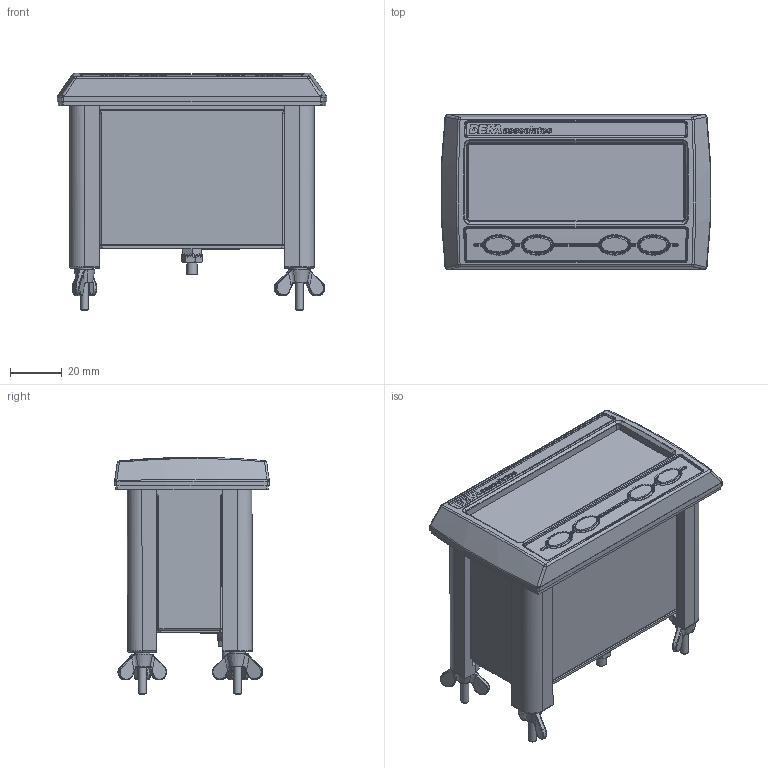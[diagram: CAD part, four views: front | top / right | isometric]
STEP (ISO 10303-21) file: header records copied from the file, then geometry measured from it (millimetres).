
FILE_DESCRIPTION (( 'STEP AP214' ), '1' );
FILE_NAME ('BA3X7SE.STEP', '2023-09-21T10:15:50', ( '' ), ( '' ), 'SwSTEP 2.0', 'SolidWorks 2023', '' );
FILE_SCHEMA (( 'AUTOMOTIVE_DESIGN' ));
Length unit declared in the file: millimetre
Products named in the file (21): BEK80604 - 105 x 60 KEYMAT; BEK80606 - 105 x 60 CLAMP SCREW; BEK80609 - 105 x 60 LABEL; spt_2.5-5-h-5.0-EX^pxc_1732412_01_SPT-2-5-5-H-5-0-EX_3D_Ex ec Loop Indicator Stainless Steel Enc. Assembly; pxc_1732409_01_SPT-2-5-4-H-5-0-EX_3D^Ex ec Loop Indicator Stainless Steel Enc. Assembly; BA3701 Certification Label; M4 Shakeproof washer; BEK80611 - 105 x 60 GASKET_Flat Gasket; plain washer clevis pin grade a_bsi_BS EN 28738 - 3; Programming Slot Label; 018-063 Stainless Steel Enclosure; spt_2.5-3-h-5.0-EX^pxc_1732399_01_SPT-2-5-3-H-5-0-EX_3D_Ex ec Loop Indicator Stainless Steel Enc. Assembly; pxc_1732412_01_SPT-2-5-5-H-5-0-EX_3D^Ex ec Loop Indicator Stainless Steel Enc. Assembly; Rugged panel glass; Rear Panel with Text; wing nut (type a)_is_IS 2636 A - M3-N; hex thin nut chamfered gradeab_bsi_BS EN 24035 - M4 - N; BEK80605 - 105 x 60 CORNER CLAMP; pxc_1732399_01_SPT-2-5-3-H-5-0-EX_3D^Ex ec Loop Indicator Stainless Steel Enc. Assembly; spt_2.5-4-h-5.0-EX^pxc_1732409_01_SPT-2-5-4-H-5-0-EX_3D_Ex ec Loop Indicator Stainless Steel Enc. Assembly; BA3X7SE
Assembly tree (34 placements, depth 3):
  BA3X7SE
    018-063 Stainless Steel Enclosure
    BEK80604 - 105 x 60 KEYMAT
    wing nut (type a)_is_IS 2636 A - M3-N  x4
    BEK80605 - 105 x 60 CORNER CLAMP  x4
    BEK80606 - 105 x 60 CLAMP SCREW  x4
    BEK80611 - 105 x 60 GASKET_Flat Gasket
    plain washer clevis pin grade a_bsi_BS EN 28738 - 3  x4
    BEK80609 - 105 x 60 LABEL
    pxc_1732399_01_SPT-2-5-3-H-5-0-EX_3D^Ex ec Loop Indicator Stainless Steel Enc. Assembly
      spt_2.5-3-h-5.0-EX^pxc_1732399_01_SPT-2-5-3-H-5-0-EX_3D_Ex ec Loop Indicator Stainless Steel Enc. Assembly
    pxc_1732409_01_SPT-2-5-4-H-5-0-EX_3D^Ex ec Loop Indicator Stainless Steel Enc. Assembly
      spt_2.5-4-h-5.0-EX^pxc_1732409_01_SPT-2-5-4-H-5-0-EX_3D_Ex ec Loop Indicator Stainless Steel Enc. Assembly
    pxc_1732412_01_SPT-2-5-5-H-5-0-EX_3D^Ex ec Loop Indicator Stainless Steel Enc. Assembly
      spt_2.5-5-h-5.0-EX^pxc_1732412_01_SPT-2-5-5-H-5-0-EX_3D_Ex ec Loop Indicator Stainless Steel Enc. Assembly
    Rugged panel glass
    BA3701 Certification Label
    Programming Slot Label
    Rear Panel with Text
    M4 Shakeproof washer  x2
    hex thin nut chamfered gradeab_bsi_BS EN 24035 - M4 - N  x2
Bounding box: 104.62 x 60 x 92.03 mm (x, y, z)
Volume: 293438.6 mm3; surface area: 85515.8 mm2
Topology: 31 solids, 31 shells, 3941 faces, 10229 edges, 6580 vertices
Faces by surface type: plane 2668, cylinder 549, bspline 414, cone 146, torus 104, sphere 60
Full cylindrical faces by diameter (mm): 0.457 x3, 1 x36, 1.1 x24, 1.5 x18, 2.5 x4, 3 x12, 3.3 x2, 3.4 x4, 3.5 x4, 4 x15, 6 x4
Entity records: 152685 total; most frequent: CARTESIAN_POINT 42104, ORIENTED_EDGE 17986, DIRECTION 15928, EDGE_CURVE 8993, VECTOR 7078, LINE 7078, VERTEX_POINT 5936, AXIS2_PLACEMENT_3D 4425
